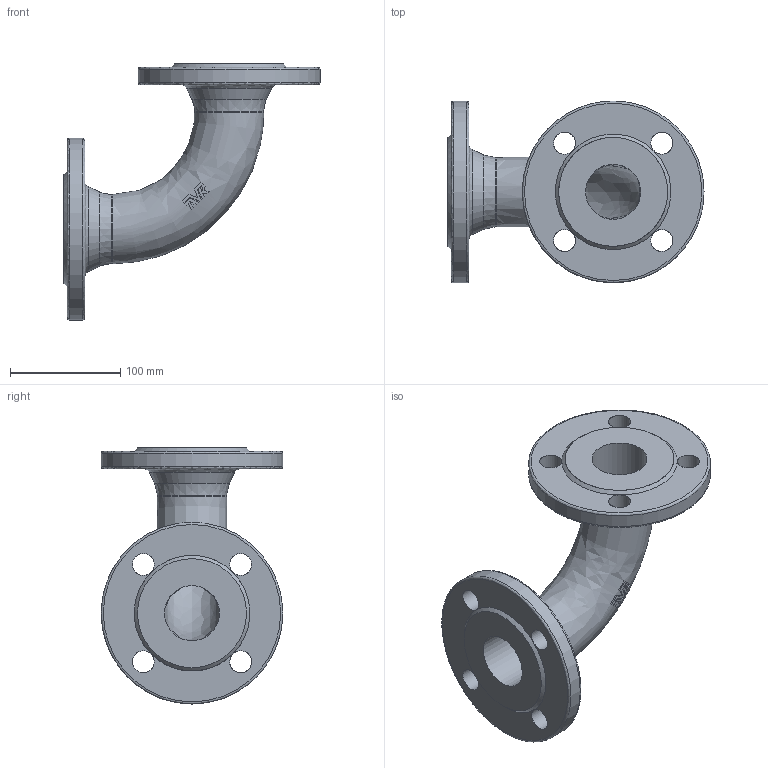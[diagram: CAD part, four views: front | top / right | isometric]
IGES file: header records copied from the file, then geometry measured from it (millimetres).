
Start section: SolidWorks IGES file using analytic representation for surfaces
Global section: file name: \\avksan2\techshare\PBM outline export from Enovia\O_712_0610_DN50_1X_REV01.igs; native system: SolidWorks 2019; preprocessor: SolidWorks 2019; author: pbm; date: 211119.104958; units: millimetre
Bounding box: 232.5 x 165 x 232.5 mm (x, y, z)
Surface area: 174677.6 mm2 (no closed solid volume)
Topology: 0 solids, 0 shells, 75 faces, 363 edges, 327 vertices
Faces by surface type: bspline 41, revolution 34
